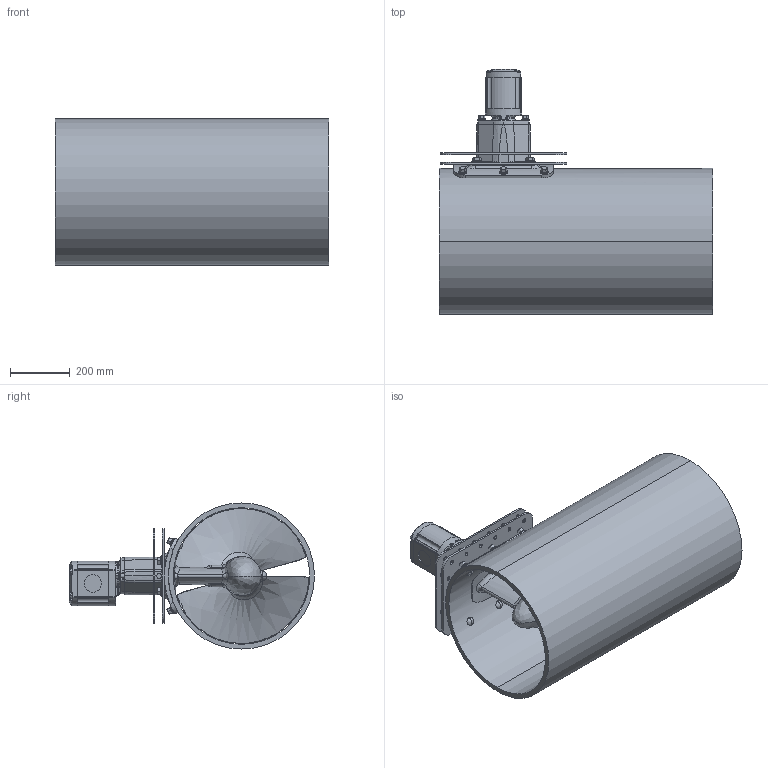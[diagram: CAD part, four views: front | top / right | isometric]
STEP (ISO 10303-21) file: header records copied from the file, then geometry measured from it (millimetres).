
FILE_DESCRIPTION (( 'STEP AP214' ), '1' );
FILE_NAME ('KP18X-H-ST_revA.STEP', '2021-02-16T19:19:17', ( '' ), ( '' ), 'SwSTEP 2.0', 'SolidWorks 2019', '' );
FILE_SCHEMA (( 'AUTOMOTIVE_DESIGN' ));
Length unit declared in the file: inch
Products named in the file (2): KP18X-H-ST_revA
Bounding box: 914.4 x 820.17 x 488.95 mm (x, y, z)
Volume: 35772586.9 mm3; surface area: 3870755.4 mm2
Topology: 3 solids, 3 shells, 1077 faces, 2697 edges, 1631 vertices
Faces by surface type: cylinder 355, plane 310, bspline 190, cone 149, torus 55, sphere 18
Entity records: 50549 total; most frequent: CARTESIAN_POINT 26578, ORIENTED_EDGE 5308, DIRECTION 4653, EDGE_CURVE 2654, AXIS2_PLACEMENT_3D 1914, VERTEX_POINT 1627, EDGE_LOOP 1193, FACE_OUTER_BOUND 1077
